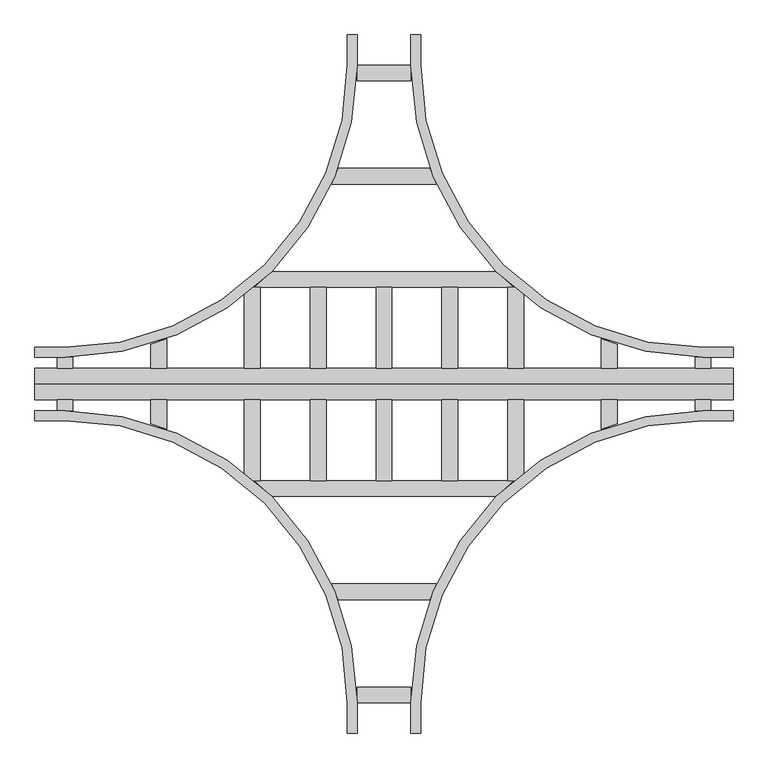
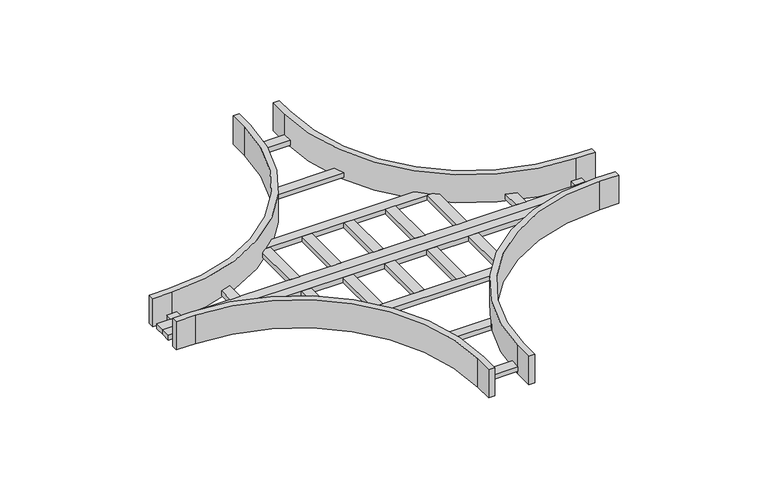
"""IFC4 building model written with IfcOpenShell, lengths in millimetres: cable carrier fitting geometry, Legrand_CableLadder_Swifts_Sapphire_Cross2Piece-750R-13 : Hot Dip Galvanised (after manufacture)."""

from ifc_helpers import new_model, si_unit, point, frame, frame_2d, origin, place, context, project, spatial, polyline, circle_curve, trimmed, segment, composite_curve, outline, extrude, source, transform, mapped, element, save


def cable_carrier_fitting_f8c73cef(model_context):
    return source(origin(), model_context, "Body", "SweptSolid", [
        extrude(outline(polyline([(-196.0, 42.0), (-196.0, 256.6), (-154.0, 256.6), (-154.0, 42.0), (-196.0, 42.0)])), frame((0.0, 0.0, -52.5), z_axis=(0.0, 0.0, 1.0), x_axis=(1.0, 0.0, 0.0)), (0.0, 0.0, 1.0), 21.0),
        extrude(outline(polyline([(154.0, 42.0), (154.0, 256.6), (196.0, 256.6), (196.0, 42.0), (154.0, 42.0)])), frame((0.0, 0.0, -52.5), z_axis=(0.0, 0.0, 1.0), x_axis=(1.0, 0.0, 0.0)), (0.0, 0.0, 1.0), 21.0),
        extrude(outline(polyline([(-154.0, -42.0), (-154.0, -256.6), (-196.0, -256.6), (-196.0, -42.0), (-154.0, -42.0)])), frame((0.0, 0.0, -52.5), z_axis=(0.0, 0.0, 1.0), x_axis=(1.0, 0.0, 0.0)), (0.0, 0.0, 1.0), 21.0),
        extrude(outline(polyline([(196.0, -256.6), (154.0, -256.6), (154.0, -42.0), (196.0, -42.0), (196.0, -256.6)])), frame((0.0, 0.0, -52.5), z_axis=(0.0, 0.0, 1.0), x_axis=(1.0, 0.0, 0.0)), (0.0, 0.0, 1.0), 21.0),
        extrude(outline(composite_curve([segment(polyline([(577.5, 42.0), (577.5, 119.8342692)]), True, "CONTINUOUS"), segment(trimmed(circle_curve(frame_2d((847.0, 847.0)), 775.5), [point((577.5, 119.8342692))], [point((619.5, 105.6202053))], True, "CARTESIAN"), True, "CONTINUOUS"), segment(polyline([(619.5, 105.6202053), (619.5, 42.0), (577.5, 42.0)]), True, "CONTINUOUS")], self_intersect=False)), frame((0.0, 0.0, -52.5), z_axis=(0.0, 0.0, 1.0), x_axis=(1.0, 0.0, 0.0)), (0.0, 0.0, 1.0), 21.0),
        extrude(outline(composite_curve([segment(polyline([(577.5, -119.8342692), (577.5, -42.0), (619.5, -42.0), (619.5, -105.6202053)]), True, "CONTINUOUS"), segment(trimmed(circle_curve(frame_2d((847.0, -847.0)), 775.5), [point((619.5, -105.6202053))], [point((577.5, -119.8342692))], True, "CARTESIAN"), True, "CONTINUOUS")], self_intersect=False)), frame((0.0, 0.0, -52.5), z_axis=(0.0, 0.0, 1.0), x_axis=(1.0, 0.0, 0.0)), (0.0, 0.0, 1.0), 21.0),
        extrude(outline(composite_curve([segment(polyline([(-577.5, 42.0), (-619.5, 42.0), (-619.5, 105.6202053)]), True, "CONTINUOUS"), segment(trimmed(circle_curve(frame_2d((-847.0, 847.0)), 775.5), [point((-619.5, 105.6202053))], [point((-577.5, 119.8342692))], True, "CARTESIAN"), True, "CONTINUOUS"), segment(polyline([(-577.5, 119.8342692), (-577.5, 42.0)]), True, "CONTINUOUS")], self_intersect=False)), frame((0.0, 0.0, -52.5), z_axis=(0.0, 0.0, 1.0), x_axis=(1.0, 0.0, 0.0)), (0.0, 0.0, 1.0), 21.0),
        extrude(outline(composite_curve([segment(polyline([(-619.5, -42.0), (-577.5, -42.0), (-577.5, -119.8342692)]), True, "CONTINUOUS"), segment(trimmed(circle_curve(frame_2d((-847.0, -847.0)), 775.5), [point((-577.5, -119.8342692))], [point((-619.5, -105.6202053))], True, "CARTESIAN"), True, "CONTINUOUS"), segment(polyline([(-619.5, -105.6202053), (-619.5, -42.0)]), True, "CONTINUOUS")], self_intersect=False)), frame((0.0, 0.0, -52.5), z_axis=(0.0, 0.0, 1.0), x_axis=(1.0, 0.0, 0.0)), (0.0, 0.0, 1.0), 21.0),
        extrude(outline(polyline([(-371.0, 42.0), (-371.0, 256.6), (-329.0, 256.6), (-329.0, 42.0), (-371.0, 42.0)])), frame((0.0, 0.0, -52.5), z_axis=(0.0, 0.0, 1.0), x_axis=(1.0, 0.0, 0.0)), (0.0, 0.0, 1.0), 21.0),
        extrude(outline(polyline([(-329.0, -256.6), (-371.0, -256.6), (-371.0, -42.0), (-329.0, -42.0), (-329.0, -256.6)])), frame((0.0, 0.0, -52.5), z_axis=(0.0, 0.0, 1.0), x_axis=(1.0, 0.0, 0.0)), (0.0, 0.0, 1.0), 21.0),
        extrude(outline(polyline([(329.0, 42.0), (329.0, 256.6), (371.0, 256.6), (371.0, 42.0), (329.0, 42.0)])), frame((0.0, 0.0, -52.5), z_axis=(0.0, 0.0, 1.0), x_axis=(1.0, 0.0, 0.0)), (0.0, 0.0, 1.0), 21.0),
        extrude(outline(polyline([(371.0, -42.0), (371.0, -256.6), (329.0, -256.6), (329.0, -42.0), (371.0, -42.0)])), frame((0.0, 0.0, -52.5), z_axis=(0.0, 0.0, 1.0), x_axis=(1.0, 0.0, 0.0)), (0.0, 0.0, 1.0), 21.0),
        extrude(outline(polyline([(-21.0, 42.0), (-21.0, 256.6), (21.0, 256.6), (21.0, 42.0), (-21.0, 42.0)])), frame((0.0, 0.0, -52.5), z_axis=(0.0, 0.0, 1.0), x_axis=(1.0, 0.0, 0.0)), (0.0, 0.0, 1.0), 21.0),
        extrude(outline(polyline([(21.0, -42.0), (21.0, -256.6), (-21.0, -256.6), (-21.0, -42.0), (21.0, -42.0)])), frame((0.0, 0.0, -52.5), z_axis=(0.0, 0.0, 1.0), x_axis=(1.0, 0.0, 0.0)), (0.0, 0.0, 1.0), 21.0),
        extrude(outline(polyline([(-868.0, 42.0), (-868.0, 71.5), (-826.0, 71.5), (-826.0, 42.0), (-868.0, 42.0)])), frame((0.0, 0.0, -52.5), z_axis=(0.0, 0.0, 1.0), x_axis=(1.0, 0.0, 0.0)), (0.0, 0.0, 1.0), 21.0),
        extrude(outline(polyline([(-868.0, -71.5), (-868.0, -42.0), (-826.0, -42.0), (-826.0, -71.5), (-868.0, -71.5)])), frame((0.0, 0.0, -52.5), z_axis=(0.0, 0.0, 1.0), x_axis=(1.0, 0.0, 0.0)), (0.0, 0.0, 1.0), 21.0),
        extrude(outline(polyline([(826.0, 42.0), (826.0, 71.5), (868.0, 71.5), (868.0, 42.0), (826.0, 42.0)])), frame((0.0, 0.0, -52.5), z_axis=(0.0, 0.0, 1.0), x_axis=(1.0, 0.0, 0.0)), (0.0, 0.0, 1.0), 21.0),
        extrude(outline(polyline([(826.0, -71.5), (826.0, -42.0), (868.0, -42.0), (868.0, -71.5), (826.0, -71.5)])), frame((0.0, 0.0, -52.5), z_axis=(0.0, 0.0, 1.0), x_axis=(1.0, 0.0, 0.0)), (0.0, 0.0, 1.0), 21.0),
        extrude(outline(composite_curve([segment(trimmed(circle_curve(frame_2d((847.0, 847.0)), 775.5), [point((298.6773851, 298.6))], [point((344.1798632, 256.6))], True, "CARTESIAN"), True, "CONTINUOUS"), segment(polyline([(344.1798632, 256.6), (-344.1798632, 256.6)]), True, "CONTINUOUS"), segment(trimmed(circle_curve(frame_2d((-847.0, 847.0)), 775.5), [point((-344.1798632, 256.6))], [point((-298.6773851, 298.6))], True, "CARTESIAN"), True, "CONTINUOUS"), segment(polyline([(-298.6773851, 298.6), (298.6773851, 298.6)]), True, "CONTINUOUS")], self_intersect=False)), frame((0.0, 0.0, -52.5), z_axis=(0.0, 0.0, 1.0), x_axis=(1.0, 0.0, 0.0)), (0.0, 0.0, 1.0), 21.0),
        extrude(outline(composite_curve([segment(polyline([(298.6773851, -298.6), (-298.6773851, -298.6)]), True, "CONTINUOUS"), segment(trimmed(circle_curve(frame_2d((-847.0, -847.0)), 775.5), [point((-298.6773851, -298.6))], [point((-344.1798632, -256.6))], True, "CARTESIAN"), True, "CONTINUOUS"), segment(polyline([(-344.1798632, -256.6), (344.1798632, -256.6)]), True, "CONTINUOUS"), segment(trimmed(circle_curve(frame_2d((847.0, -847.0)), 775.5), [point((344.1798632, -256.6))], [point((298.6773851, -298.6))], True, "CARTESIAN"), True, "CONTINUOUS")], self_intersect=False)), frame((0.0, 0.0, -52.5), z_axis=(0.0, 0.0, 1.0), x_axis=(1.0, 0.0, 0.0)), (0.0, 0.0, 1.0), 21.0),
        extrude(outline(polyline([(-71.5, -847.0), (-71.5, -805.0), (71.5, -805.0), (71.5, -847.0), (-71.5, -847.0)])), frame((0.0, 0.0, -52.5), z_axis=(0.0, 0.0, 1.0), x_axis=(1.0, 0.0, 0.0)), (0.0, 0.0, 1.0), 21.0),
        extrude(outline(polyline([(-71.5, 847.0), (71.5, 847.0), (71.5, 805.0), (-71.5, 805.0), (-71.5, 847.0)])), frame((0.0, 0.0, -52.5), z_axis=(0.0, 0.0, 1.0), x_axis=(1.0, 0.0, 0.0)), (0.0, 0.0, 1.0), 21.0),
        extrude(outline(composite_curve([segment(trimmed(circle_curve(frame_2d((847.0, 847.0)), 775.5), [point((121.5934864, 572.8))], [point((138.8913854, 530.8))], True, "CARTESIAN"), True, "CONTINUOUS"), segment(polyline([(138.8913854, 530.8), (-138.8913854, 530.8)]), True, "CONTINUOUS"), segment(trimmed(circle_curve(frame_2d((-847.0, 847.0)), 775.5), [point((-138.8913854, 530.8))], [point((-121.5934864, 572.8))], True, "CARTESIAN"), True, "CONTINUOUS"), segment(polyline([(-121.5934864, 572.8), (121.5934864, 572.8)]), True, "CONTINUOUS")], self_intersect=False)), frame((0.0, 0.0, -52.5), z_axis=(0.0, 0.0, 1.0), x_axis=(1.0, 0.0, 0.0)), (0.0, 0.0, 1.0), 21.0),
        extrude(outline(composite_curve([segment(trimmed(circle_curve(frame_2d((847.0, -847.0)), 775.5), [point((138.8913854, -530.8))], [point((121.5934864, -572.8))], True, "CARTESIAN"), True, "CONTINUOUS"), segment(polyline([(121.5934864, -572.8), (-121.5934864, -572.8)]), True, "CONTINUOUS"), segment(trimmed(circle_curve(frame_2d((-847.0, -847.0)), 775.5), [point((-121.5934864, -572.8))], [point((-138.8913854, -530.8))], True, "CARTESIAN"), True, "CONTINUOUS"), segment(polyline([(-138.8913854, -530.8), (138.8913854, -530.8)]), True, "CONTINUOUS")], self_intersect=False)), frame((0.0, 0.0, -52.5), z_axis=(0.0, 0.0, 1.0), x_axis=(1.0, 0.0, 0.0)), (0.0, 0.0, 1.0), 21.0),
        extrude(outline(polyline([(-927.0, 0.0), (927.0, 0.0), (927.0, -42.0), (-927.0, -42.0), (-927.0, 0.0)])), frame((0.0, 0.0, -52.5), z_axis=(0.0, 0.0, 1.0), x_axis=(1.0, 0.0, 0.0)), (0.0, 0.0, 1.0), 21.0),
        extrude(outline(polyline([(-927.0, 0.0), (-927.0, 42.0), (927.0, 42.0), (927.0, 0.0), (-927.0, 0.0)])), frame((0.0, 0.0, -52.5), z_axis=(0.0, 0.0, 1.0), x_axis=(1.0, 0.0, 0.0)), (0.0, 0.0, 1.0), 21.0),
        extrude(outline(composite_curve([segment(polyline([(927.0, -71.5), (927.0, -97.0), (847.0, -97.0)]), True, "CONTINUOUS"), segment(trimmed(circle_curve(frame_2d((847.0, -847.0)), 750.0), [point((847.0, -97.0))], [point((97.0, -847.0))], True, "CARTESIAN"), True, "CONTINUOUS"), segment(polyline([(97.0, -847.0), (97.0, -927.0), (71.5, -927.0), (71.5, -847.0)]), True, "CONTINUOUS"), segment(trimmed(circle_curve(frame_2d((847.0, -847.0)), 775.5), [point((71.5, -847.0))], [point((847.0, -71.5))], False, "CARTESIAN"), True, "CONTINUOUS"), segment(polyline([(847.0, -71.5), (927.0, -71.5)]), True, "CONTINUOUS")], self_intersect=False)), frame((0.0, 0.0, -62.5), z_axis=(0.0, 0.0, 1.0), x_axis=(1.0, 0.0, 0.0)), (0.0, 0.0, 1.0), 125.0),
        extrude(outline(composite_curve([segment(polyline([(-927.0, -97.0), (-927.0, -71.5), (-847.0, -71.5)]), True, "CONTINUOUS"), segment(trimmed(circle_curve(frame_2d((-847.0, -847.0)), 775.5), [point((-847.0, -71.5))], [point((-71.5, -847.0))], False, "CARTESIAN"), True, "CONTINUOUS"), segment(polyline([(-71.5, -847.0), (-71.5, -927.0), (-97.0, -927.0), (-97.0, -847.0)]), True, "CONTINUOUS"), segment(trimmed(circle_curve(frame_2d((-847.0, -847.0)), 750.0), [point((-97.0, -847.0))], [point((-847.0, -97.0))], True, "CARTESIAN"), True, "CONTINUOUS"), segment(polyline([(-847.0, -97.0), (-927.0, -97.0)]), True, "CONTINUOUS")], self_intersect=False)), frame((0.0, 0.0, -62.5), z_axis=(0.0, 0.0, 1.0), x_axis=(1.0, 0.0, 0.0)), (0.0, 0.0, 1.0), 125.0),
        extrude(outline(composite_curve([segment(polyline([(-927.0, 71.5), (-927.0, 97.0), (-847.0, 97.0)]), True, "CONTINUOUS"), segment(trimmed(circle_curve(frame_2d((-847.0, 847.0)), 750.0), [point((-847.0, 97.0))], [point((-97.0, 847.0))], True, "CARTESIAN"), True, "CONTINUOUS"), segment(polyline([(-97.0, 847.0), (-97.0, 927.0), (-71.5, 927.0), (-71.5, 847.0)]), True, "CONTINUOUS"), segment(trimmed(circle_curve(frame_2d((-847.0, 847.0)), 775.5), [point((-71.5, 847.0))], [point((-847.0, 71.5))], False, "CARTESIAN"), True, "CONTINUOUS"), segment(polyline([(-847.0, 71.5), (-927.0, 71.5)]), True, "CONTINUOUS")], self_intersect=False)), frame((0.0, 0.0, -62.5), z_axis=(0.0, 0.0, 1.0), x_axis=(1.0, 0.0, 0.0)), (0.0, 0.0, 1.0), 125.0),
        extrude(outline(composite_curve([segment(polyline([(927.0, 97.0), (927.0, 71.5), (847.0, 71.5)]), True, "CONTINUOUS"), segment(trimmed(circle_curve(frame_2d((847.0, 847.0)), 775.5), [point((847.0, 71.5))], [point((71.5, 847.0))], False, "CARTESIAN"), True, "CONTINUOUS"), segment(polyline([(71.5, 847.0), (71.5, 927.0), (97.0, 927.0), (97.0, 847.0)]), True, "CONTINUOUS"), segment(trimmed(circle_curve(frame_2d((847.0, 847.0)), 750.0), [point((97.0, 847.0))], [point((847.0, 97.0))], True, "CARTESIAN"), True, "CONTINUOUS"), segment(polyline([(847.0, 97.0), (927.0, 97.0)]), True, "CONTINUOUS")], self_intersect=False)), frame((0.0, 0.0, -62.5), z_axis=(0.0, 0.0, 1.0), x_axis=(1.0, 0.0, 0.0)), (0.0, 0.0, 1.0), 125.0),
    ])


if __name__ == "__main__":
    model = new_model("IFC4")
    model_context = context("Model", 3, world=origin())
    ifc_project = project(units=[si_unit("LENGTHUNIT", "METRE", prefix="MILLI")], contexts=[model_context])
    site = spatial("IfcSite", under=ifc_project)
    building = spatial("IfcBuilding", under=site)
    placement = place(None, origin())
    cable_carrier_fitting_shape = cable_carrier_fitting_f8c73cef(model_context)
    element("IfcCableCarrierFitting", 1, ObjectType="Legrand_CableLadder_Swifts_Sapphire_Cross2Piece-750R-13 : Hot Dip Galvanised (after manufacture)", at=placement, inside=building, context=model_context, shape_type="MappedRepresentation", body=[
        mapped(cable_carrier_fitting_shape, transform((0.0, 0.0, 0.0), x_axis=(1.0, 0.0, 0.0), y_axis=(0.0, 1.0, 0.0), z_axis=(0.0, 0.0, 1.0))),
    ])
    save(model, "model.ifc")
